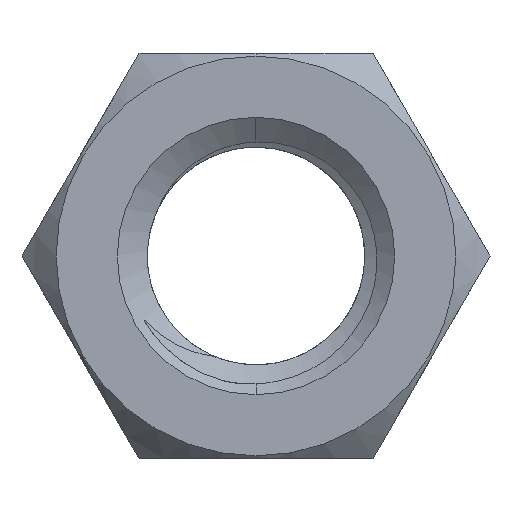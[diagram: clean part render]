
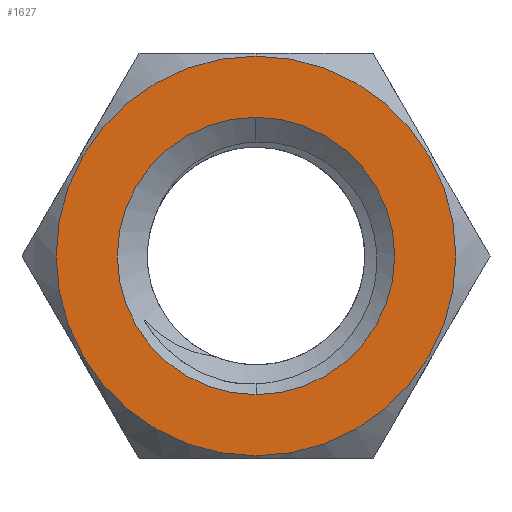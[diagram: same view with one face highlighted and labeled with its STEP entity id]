
A CAD part, front view. The second image highlights one B-rep face of the part: STEP entity #1627.
In plain terms, the highlighted planar face has unit normal (0, -1, 0).
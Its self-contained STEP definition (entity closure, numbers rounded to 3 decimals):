
#72 = DIRECTION ( 'NONE',  ( 0., -1., 0. ) ) ;
#149 = ORIENTED_EDGE ( 'NONE', *, *, #3305, .T. ) ;
#438 = CARTESIAN_POINT ( 'NONE',  ( 0., -5., 0. ) ) ;
#524 = EDGE_CURVE ( 'NONE', #4299, #4252, #628, .T. ) ;
#628 = CIRCLE ( 'NONE', #3349, 6.5 ) ;
#780 = PLANE ( 'NONE',  #1007 ) ;
#912 = DIRECTION ( 'NONE',  ( 0., 0., -1. ) ) ;
#939 = CIRCLE ( 'NONE', #1721, 6.5 ) ;
#1007 = AXIS2_PLACEMENT_3D ( 'NONE', #1213, #3034, #2988 ) ;
#1213 = CARTESIAN_POINT ( 'NONE',  ( 0., -5., 0. ) ) ;
#1251 = AXIS2_PLACEMENT_3D ( 'NONE', #3904, #4607, #912 ) ;
#1468 = CARTESIAN_POINT ( 'NONE',  ( 0., -5., 6.5 ) ) ;
#1558 = DIRECTION ( 'NONE',  ( 0., 0., -1. ) ) ;
#1580 = FACE_OUTER_BOUND ( 'NONE', #1725, .T. ) ;
#1627 = ADVANCED_FACE ( 'NONE', ( #1973, #1580 ), #780, .F. ) ;
#1721 = AXIS2_PLACEMENT_3D ( 'NONE', #2827, #2124, #4382 ) ;
#1725 = EDGE_LOOP ( 'NONE', ( #149, #1848 ) ) ;
#1749 = ORIENTED_EDGE ( 'NONE', *, *, #4188, .F. ) ;
#1848 = ORIENTED_EDGE ( 'NONE', *, *, #4687, .T. ) ;
#1973 = FACE_BOUND ( 'NONE', #4480, .T. ) ;
#2066 = VERTEX_POINT ( 'NONE', #2742 ) ;
#2124 = DIRECTION ( 'NONE',  ( 0., -1., 0. ) ) ;
#2159 = DIRECTION ( 'NONE',  ( 0., 0., -1. ) ) ;
#2266 = CIRCLE ( 'NONE', #2491, 9.37 ) ;
#2491 = AXIS2_PLACEMENT_3D ( 'NONE', #4444, #4367, #2159 ) ;
#2731 = CIRCLE ( 'NONE', #1251, 9.37 ) ;
#2742 = CARTESIAN_POINT ( 'NONE',  ( 0., -5., -9.37 ) ) ;
#2761 = CARTESIAN_POINT ( 'NONE',  ( 0., -5., 9.37 ) ) ;
#2827 = CARTESIAN_POINT ( 'NONE',  ( 0., -5., 0. ) ) ;
#2988 = DIRECTION ( 'NONE',  ( 0., 0., 1. ) ) ;
#3034 = DIRECTION ( 'NONE',  ( 0., 1., 0. ) ) ;
#3305 = EDGE_CURVE ( 'NONE', #4689, #2066, #2266, .T. ) ;
#3349 = AXIS2_PLACEMENT_3D ( 'NONE', #438, #72, #1558 ) ;
#3904 = CARTESIAN_POINT ( 'NONE',  ( 0., -5., 0. ) ) ;
#4188 = EDGE_CURVE ( 'NONE', #4252, #4299, #939, .T. ) ;
#4252 = VERTEX_POINT ( 'NONE', #4794 ) ;
#4299 = VERTEX_POINT ( 'NONE', #1468 ) ;
#4367 = DIRECTION ( 'NONE',  ( 0., -1., 0. ) ) ;
#4382 = DIRECTION ( 'NONE',  ( 0., 0., -1. ) ) ;
#4444 = CARTESIAN_POINT ( 'NONE',  ( 0., -5., 0. ) ) ;
#4480 = EDGE_LOOP ( 'NONE', ( #4504, #1749 ) ) ;
#4504 = ORIENTED_EDGE ( 'NONE', *, *, #524, .F. ) ;
#4607 = DIRECTION ( 'NONE',  ( 0., -1., 0. ) ) ;
#4687 = EDGE_CURVE ( 'NONE', #2066, #4689, #2731, .T. ) ;
#4689 = VERTEX_POINT ( 'NONE', #2761 ) ;
#4794 = CARTESIAN_POINT ( 'NONE',  ( 0., -5., -6.5 ) ) ;
